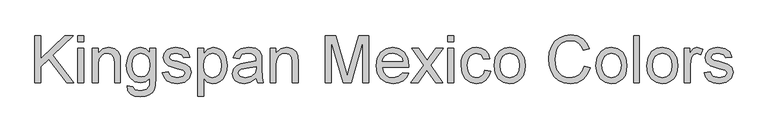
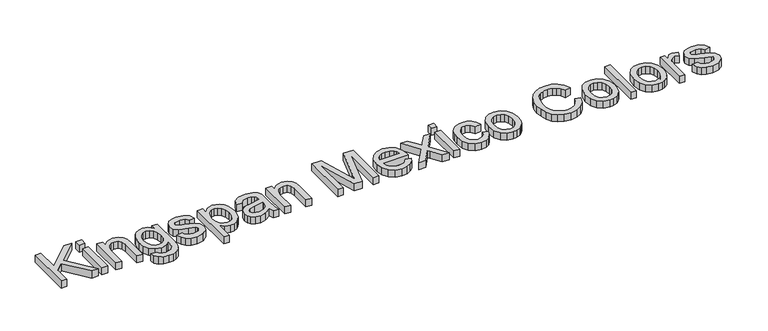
"""IFC4 building model written with IfcOpenShell, lengths in millimetres: proxy geometry, KIP-MX_ColourRange_English : KIP-MX_ColourRange_English."""

import ifcopenshell
import ifcopenshell.guid

model = None  # the IFC model being written
_history = None  # IfcOwnerHistory: only IFC2X3 demands one
_inside = {}  # id of a spatial element -> (the spatial element, [elements in it])
_under = {}  # id of a project, library or spatial element -> (it, [spatial elements below it])
_declared = {}  # id of a project -> (the project, [libraries it declares])
_typed = {}  # id of a type object -> (the type object, [elements of that type])
_made_of = {}  # id of a material, layer set ... -> (it, [elements and type objects made of it])


def new_model(schema):
    """Start an empty IFC model of exactly this schema.

    Asked for "IFC4X3", IfcOpenShell would pick the latest addendum, in which some entities
    have other attributes; the version numbers below select the first issue.
    IFC2X3 requires an IfcOwnerHistory on every rooted entity: one is made here for all.
    """
    global model, _history
    if schema == "IFC4X3":
        model = ifcopenshell.file(schema_version=(4, 3, 0, 0))
    else:
        model = ifcopenshell.file(schema=schema)
    _inside.clear()
    _under.clear()
    _declared.clear()
    _typed.clear()
    _made_of.clear()
    _history = None
    if model.schema == "IFC2X3":
        org = make("IfcOrganization", Name="unknown")
        user = make(
            "IfcPersonAndOrganization",
            ThePerson=make("IfcPerson", FamilyName="unknown"),
            TheOrganization=org,
        )
        app = make(
            "IfcApplication",
            ApplicationDeveloper=org,
            Version="unknown",
            ApplicationFullName="unknown",
            ApplicationIdentifier="unknown",
        )
        _history = make(
            "IfcOwnerHistory",
            OwningUser=user,
            OwningApplication=app,
            ChangeAction="ADDED",
            CreationDate=0,
        )
    return model


def make(cls, **values):
    """One entity of the class cls with the attributes given. An attribute that is None is left unset."""
    return model.create_entity(
        cls, **{name: value for name, value in values.items() if value is not None}
    )


def rooted(cls, **values):
    """An entity with a GlobalId (a new one), such as an element, a storey or a relation."""
    return make(cls, GlobalId=ifcopenshell.guid.new(), OwnerHistory=_history, **values)


def si_unit(unit_type, name, prefix=None):
    """IfcSIUnit, for example si_unit("LENGTHUNIT", "METRE", prefix="MILLI")."""
    return make("IfcSIUnit", UnitType=unit_type, Prefix=prefix, Name=name)


def assignment(units):
    """IfcUnitAssignment: the units of a project."""
    return None if units is None else make("IfcUnitAssignment", Units=units)


def point(xyz):
    """IfcCartesianPoint."""
    return None if xyz is None else make("IfcCartesianPoint", Coordinates=xyz)


def direction(xyz):
    """IfcDirection."""
    return None if xyz is None else make("IfcDirection", DirectionRatios=xyz)


def frame(location, z_axis=None, x_axis=None):
    """IfcAxis2Placement3D, a coordinate frame: its origin and axes. An axis left out is left unset."""
    return make(
        "IfcAxis2Placement3D",
        Location=point(location),
        Axis=direction(z_axis),
        RefDirection=direction(x_axis),
    )


def origin():
    """The frame at (0, 0, 0) with its axes left unset."""
    return frame((0.0, 0.0, 0.0))


def origin_with_axes():
    """The frame at (0, 0, 0) with the z axis (0, 0, 1) and the x axis (1, 0, 0) written out."""
    return frame((0.0, 0.0, 0.0), z_axis=(0.0, 0.0, 1.0), x_axis=(1.0, 0.0, 0.0))


def place(relative_to, where):
    """IfcLocalPlacement: puts the frame where relative to a parent placement (None: the world)."""
    return make(
        "IfcLocalPlacement", PlacementRelTo=relative_to, RelativePlacement=where
    )


def context(
    kind, dimensions, precision=None, world=None, true_north=None, identifier=None
):
    """IfcGeometricRepresentationContext, for example the 3D "Model" context."""
    return make(
        "IfcGeometricRepresentationContext",
        ContextIdentifier=identifier,
        ContextType=kind,
        CoordinateSpaceDimension=dimensions,
        Precision=precision,
        WorldCoordinateSystem=world,
        TrueNorth=true_north,
    )


def project(units=None, contexts=None):
    """IfcProject with its units and contexts."""
    return rooted(
        "IfcProject",
        Name="project",
        RepresentationContexts=contexts,
        UnitsInContext=assignment(units),
    )


def spatial(cls, under=None, at=None, **own):
    """A site, building, storey or space (cls), placed at a placement, below another one or the project."""
    s = rooted(cls, ObjectPlacement=at, **own)
    if under is not None:
        _under.setdefault(under.id(), (under, []))[1].append(s)
    return s


def polyline(points):
    """IfcPolyline through the points."""
    return make("IfcPolyline", Points=[point(p) for p in points])


def outline(outer, holes=None, kind="AREA"):
    """IfcArbitraryClosedProfileDef: a profile drawn as a closed curve; with holes, ...WithVoids."""
    if holes is None:
        return make("IfcArbitraryClosedProfileDef", ProfileType=kind, OuterCurve=outer)
    return make(
        "IfcArbitraryProfileDefWithVoids",
        ProfileType=kind,
        OuterCurve=outer,
        InnerCurves=holes,
    )


def extrude(swept, where, along, depth):
    """IfcExtrudedAreaSolid: the profile swept, set in the frame where, extruded along a direction by depth."""
    return make(
        "IfcExtrudedAreaSolid",
        SweptArea=swept,
        Position=where,
        ExtrudedDirection=direction(along),
        Depth=depth,
    )


def shape(context_of_items, identifier, shape_type, items):
    """IfcShapeRepresentation: the items that make up one representation, for example the "Body"."""
    return make(
        "IfcShapeRepresentation",
        ContextOfItems=context_of_items,
        RepresentationIdentifier=identifier,
        RepresentationType=shape_type,
        Items=items,
    )


def source(mapping_origin, context_of_items, identifier, shape_type, items):
    """IfcRepresentationMap: a shape defined once, which mapped items show again and again."""
    return make(
        "IfcRepresentationMap",
        MappingOrigin=mapping_origin,
        MappedRepresentation=shape(context_of_items, identifier, shape_type, items),
    )


def transform(
    local_origin,
    x_axis=None,
    y_axis=None,
    z_axis=None,
    scale=None,
    scale2=None,
    scale3=None,
    uniform=True,
):
    """IfcCartesianTransformationOperator3D, or its non-uniform kind. x_axis, y_axis, z_axis: its Axis1, 2, 3."""
    if uniform:
        return make(
            "IfcCartesianTransformationOperator3D",
            Axis1=direction(x_axis),
            Axis2=direction(y_axis),
            LocalOrigin=point(local_origin),
            Scale=scale,
            Axis3=direction(z_axis),
        )
    return make(
        "IfcCartesianTransformationOperator3DnonUniform",
        Axis1=direction(x_axis),
        Axis2=direction(y_axis),
        LocalOrigin=point(local_origin),
        Scale=scale,
        Axis3=direction(z_axis),
        Scale2=scale2,
        Scale3=scale3,
    )


def mapped(mapping_source, mapping_target):
    """IfcMappedItem: shows the shape of a source again, moved by a transform."""
    return make(
        "IfcMappedItem", MappingSource=mapping_source, MappingTarget=mapping_target
    )


def made_of(thing, what):
    """Note that an element or type object is made of a material, layer set ...; save() writes the relation."""
    if what is not None:
        _made_of.setdefault(what.id(), (what, []))[1].append(thing)
    return thing


def element(
    cls,
    number,
    at=None,
    inside=None,
    cuts=None,
    type_object=None,
    material=None,
    context=None,
    identifier="Body",
    shape_type=None,
    held_by="IfcProductDefinitionShape",
    body=None,
    shapes=None,
    **own,
):
    """One element of the class cls, such as IfcWall. Its Tag is "e" and its number.

    at: its placement. inside: the storey or other place that contains it. cuts: it is an
    opening in that element (IfcRelVoidsElement). A single representation is given by context,
    identifier, shape_type and body (its items); several are given by shapes. held_by: the class
    of the entity that holds the representations. save() writes the other relations.
    """
    e = rooted(cls, Tag="e%d" % number, ObjectPlacement=at, **own)
    if body is not None:
        shapes = [shape(context, identifier, shape_type, body)]
    if shapes is not None:
        e.Representation = make(held_by, Representations=shapes)
    if inside is not None:
        _inside.setdefault(inside.id(), (inside, []))[1].append(e)
    if cuts is not None:
        rooted(
            "IfcRelVoidsElement", RelatingBuildingElement=cuts, RelatedOpeningElement=e
        )
    if type_object is not None:
        _typed.setdefault(type_object.id(), (type_object, []))[1].append(e)
    return made_of(e, material)


def aggregate(whole, parts):
    """IfcRelAggregates: a whole, such as a stair, and the parts it consists of."""
    return rooted("IfcRelAggregates", RelatingObject=whole, RelatedObjects=parts)


def save(model, path):
    """Write the relations noted so far, then the file.

    IfcRelAggregates (storeys below a building ...), IfcRelContainedInSpatialStructure (elements
    in a storey), IfcRelDefinesByType, IfcRelAssociatesMaterial and IfcRelDeclares: one each for
    every whole, place, type object, material and project.
    """
    for whole, parts in _under.values():
        aggregate(whole, parts)
    for where, things in _inside.values():
        rooted(
            "IfcRelContainedInSpatialStructure",
            RelatedElements=things,
            RelatingStructure=where,
        )
    for kind, things in _typed.values():
        rooted("IfcRelDefinesByType", RelatedObjects=things, RelatingType=kind)
    for what, things in _made_of.values():
        rooted("IfcRelAssociatesMaterial", RelatedObjects=things, RelatingMaterial=what)
    for by, libraries in _declared.values():
        rooted("IfcRelDeclares", RelatingContext=by, RelatedDefinitions=libraries)
    model.write(path)


def generic_models_94ed907e(model_context):
    return source(origin(), model_context, "Body", "SweptSolid", [
        extrude(outline(polyline([(-1110.1207086, 2278.480545), (-1110.1207086, 2429.1650102), (-1091.2851505, 2429.1650102), (-1091.2851505, 2355.4046702), (-1014.0299315, 2429.1650102), (-987.6895807, 2429.1650102), (-1052.5471764, 2367.2136822), (-985.3351359, 2278.480545), (-1008.3645488, 2278.480545), (-1065.9012928, 2354.4849652), (-1091.2851505, 2330.2783299), (-1091.2851505, 2278.480545), (-1110.1207086, 2278.480545)])), origin_with_axes(), (0.0, 0.0, 1.0), 25.0),
        extrude(outline(polyline([(-973.562912, 2410.3294521), (-973.562912, 2429.1650102), (-954.7273539, 2429.1650102), (-954.7273539, 2410.3294521), (-973.562912, 2410.3294521)])), origin_with_axes(), (0.0, 0.0, 1.0), 25.0),
        extrude(outline(polyline([(-973.562912, 2278.480545), (-973.562912, 2389.1394492), (-954.7273539, 2389.1394492), (-954.7273539, 2278.480545), (-973.562912, 2278.480545)])), origin_with_axes(), (0.0, 0.0, 1.0), 25.0),
        extrude(outline(polyline([(-926.4740167, 2278.480545), (-926.4740167, 2389.1394492), (-907.6384585, 2389.1394492), (-907.6384585, 2373.6884054), (-893.2358784, 2387.0425218), (-873.5725857, 2391.4938939), (-855.7854913, 2387.9070445), (-843.6453854, 2378.4892654), (-837.9983968, 2364.6385083), (-837.0051154, 2346.4283495), (-837.0051154, 2278.480545), (-855.8406736, 2278.480545), (-855.8406736, 2343.8899637), (-858.0111774, 2360.5550181), (-865.681517, 2369.3657919), (-878.6125691, 2372.6583358), (-889.6444304, 2370.8097287), (-899.0484139, 2365.2639077), (-905.4909474, 2354.5493446), (-907.6384585, 2337.1945114), (-907.6384585, 2278.480545), (-926.4740167, 2278.480545)])), origin_with_axes(), (0.0, 0.0, 1.0), 25.0),
        extrude(outline(polyline([(-815.8151125, 2269.0627659), (-796.9795544, 2266.7083212), (-790.8727132, 2256.7755073), (-772.5889781, 2252.5816525), (-753.3119615, 2257.3273303), (-744.1149116, 2270.6446585), (-742.8273247, 2292.6072136), (-756.0894706, 2282.0122122), (-772.2578843, 2278.480545), (-791.6774551, 2282.5916263), (-806.1582101, 2294.9248702), (-815.1667205, 2313.0062703), (-818.1695573, 2334.3618201), (-812.780086, 2363.5532564), (-806.1858013, 2375.4036552), (-797.1818894, 2384.2098304), (-786.0764517, 2389.672878), (-773.1775893, 2391.4938939), (-756.3745791, 2387.3736156), (-742.8273247, 2375.0127805), (-742.8273247, 2389.1394492), (-723.9917665, 2389.1394492), (-723.9917665, 2293.600495), (-725.2793535, 2271.5413709), (-729.1421144, 2257.0146306), (-735.79618, 2247.3807208), (-745.4576809, 2240.0000883), (-757.915085, 2235.3095929), (-772.9568601, 2233.7460944), (-790.4818386, 2235.9487878), (-804.282012, 2242.5568682), (-813.1341725, 2253.5887295), (-815.8151125, 2269.0627659)]), holes=[polyline([(-799.3339991, 2335.6494071), (-797.3244437, 2318.3727489), (-791.2957775, 2306.4947589), (-782.2320849, 2299.6107671), (-771.1174501, 2297.3161032), (-760.0855888, 2299.5969715), (-750.9759109, 2306.4395766), (-744.8644712, 2318.1658152), (-742.8273247, 2335.0975841), (-744.924252, 2351.4269461), (-751.2150342, 2363.1853744), (-760.4580693, 2370.2900954), (-771.4117557, 2372.6583358), (-782.1677055, 2370.3268836), (-791.1854129, 2363.3325272), (-797.2968526, 2351.7488429), (-799.3339991, 2335.6494071)])]), origin_with_axes(), (0.0, 0.0, 1.0), 25.0),
        extrude(outline(polyline([(-702.8017636, 2311.4427718), (-683.9662054, 2313.7972165), (-680.9955583, 2305.7406008), (-675.2474021, 2299.8177007), (-655.2714098, 2294.9616584), (-636.0679697, 2299.4130305), (-629.8139757, 2309.8608792), (-631.3866713, 2314.6617392), (-636.1047579, 2318.3221651), (-655.492139, 2323.6932422), (-683.8558408, 2332.9086862), (-696.23507, 2343.6692345), (-700.4473188, 2358.8627609), (-697.0628045, 2372.8974591), (-687.8289664, 2383.6212192), (-675.8544074, 2389.1946315), (-659.6492056, 2391.4938939), (-636.7301573, 2387.7966799), (-622.1620302, 2377.7902896), (-615.6873071, 2360.8861119), (-634.5228653, 2358.5316672), (-641.6045937, 2368.9243335), (-658.1776776, 2372.6583358), (-676.2038953, 2369.0898804), (-681.6117607, 2360.7757473), (-679.3676805, 2355.2943056), (-672.3411344, 2351.1372391), (-656.1175384, 2347.1273253), (-628.4712065, 2338.2613692), (-615.6321248, 2328.2181908), (-610.9784176, 2311.847442), (-616.4414652, 2293.8212242), (-632.2052087, 2280.7430193), (-655.5289272, 2276.1261002), (-674.5208352, 2278.3517863), (-688.3807894, 2285.0288445), (-697.6330216, 2296.0836985), (-702.8017636, 2311.4427718)])), origin_with_axes(), (0.0, 0.0, 1.0), 25.0),
        extrude(outline(polyline([(-589.7884147, 2236.1005392), (-589.7884147, 2389.1394492), (-570.9528565, 2389.1394492), (-570.9528565, 2370.671773), (-557.9298339, 2386.2883637), (-540.3450745, 2391.4938939), (-527.6071604, 2389.672878), (-516.469533, 2384.2098304), (-507.4012418, 2375.4358448), (-500.8713364, 2363.6820151), (-495.6106239, 2334.6561257), (-497.0959475, 2318.5474928), (-501.5519181, 2304.1403142), (-508.8359816, 2292.1657552), (-518.8055837, 2283.3549814), (-530.4168592, 2277.9333205), (-542.6259429, 2276.1261002), (-559.0150858, 2280.9637485), (-570.9528565, 2293.1958248), (-570.9528565, 2236.1005392), (-589.7884147, 2236.1005392)]), holes=[polyline([(-570.9528565, 2332.9270803), (-568.91571, 2316.0412967), (-562.8042703, 2304.2322847), (-553.7865629, 2297.279315), (-543.0306131, 2294.9616584), (-532.0999193, 2297.3620884), (-522.8522856, 2304.5633785), (-516.547708, 2316.8046519), (-514.4461821, 2334.3250319), (-516.4971242, 2351.118845), (-522.6499505, 2363.0934039), (-531.6538624, 2370.2671028), (-542.2580609, 2372.6583358), (-552.9036461, 2370.1153515), (-562.2524473, 2362.4863986), (-568.7777542, 2350.0106004), (-570.9528565, 2332.9270803)])]), origin_with_axes(), (0.0, 0.0, 1.0), 25.0),
        extrude(outline(polyline([(-403.7872779, 2292.6072136), (-422.052619, 2279.8417084), (-442.2309464, 2276.1261002), (-457.9716973, 2278.3609834), (-469.5829727, 2285.0656327), (-476.7428761, 2295.2467669), (-479.1295105, 2307.9111046), (-475.524267, 2322.8103254), (-466.0513056, 2333.6260561), (-452.8627361, 2339.8064736), (-436.5655637, 2342.639165), (-403.8976425, 2349.1138881), (-403.7872779, 2353.3077428), (-405.0840619, 2361.7138464), (-408.974414, 2367.2136822), (-417.6748232, 2371.2971724), (-429.796535, 2372.6583358), (-448.8528223, 2369.0346981), (-457.9395076, 2356.1772224), (-476.7750657, 2358.5316672), (-468.6264796, 2376.9257669), (-452.2189426, 2387.7047094), (-427.3685138, 2391.4938939), (-404.541436, 2388.1461678), (-391.6471721, 2379.7400642), (-385.8714247, 2366.9561648), (-384.9517198, 2350.4750515), (-384.9517198, 2327.0409684), (-383.9952266, 2294.3178649), (-380.2428302, 2278.480545), (-399.0783884, 2278.480545), (-403.7872779, 2292.6072136)]), holes=[polyline([(-403.7872779, 2330.2783299), (-434.1743307, 2324.5025826), (-450.3795326, 2321.449162), (-457.7187784, 2316.4827551), (-460.2939524, 2309.2354798), (-454.6837519, 2299.0451485), (-438.2210327, 2294.9616584), (-419.1647453, 2299.4682128), (-406.8774867, 2310.375914), (-403.8976425, 2324.944041), (-403.7872779, 2330.2783299)])]), origin_with_axes(), (0.0, 0.0, 1.0), 25.0),
        extrude(outline(polyline([(-359.0528273, 2278.480545), (-359.0528273, 2389.1394492), (-340.2172691, 2389.1394492), (-340.2172691, 2373.6884054), (-325.814689, 2387.0425218), (-306.1513964, 2391.4938939), (-288.3643019, 2387.9070445), (-276.2241961, 2378.4892654), (-270.5772075, 2364.6385083), (-269.5839261, 2346.4283495), (-269.5839261, 2278.480545), (-288.4194842, 2278.480545), (-288.4194842, 2343.8899637), (-290.589988, 2360.5550181), (-298.2603276, 2369.3657919), (-311.1913797, 2372.6583358), (-322.2232411, 2370.8097287), (-331.6272246, 2365.2639077), (-338.069758, 2354.5493446), (-340.2172691, 2337.1945114), (-340.2172691, 2278.480545), (-359.0528273, 2278.480545)])), origin_with_axes(), (0.0, 0.0, 1.0), 25.0),
        extrude(outline(polyline([(-182.4694696, 2278.480545), (-182.4694696, 2429.1650102), (-150.0590658, 2429.1650102), (-119.2305546, 2322.9574782), (-113.0133489, 2300.7741939), (-106.2811084, 2324.7968882), (-75.967632, 2429.1650102), (-43.5572282, 2429.1650102), (-43.5572282, 2278.480545), (-62.3927864, 2278.480545), (-62.3927864, 2410.3294521), (-100.2478437, 2278.480545), (-125.7788542, 2278.480545), (-163.6339115, 2410.3294521), (-163.6339115, 2278.480545), (-182.4694696, 2278.480545)])), origin_with_axes(), (0.0, 0.0, 1.0), 25.0),
        extrude(outline(polyline([(64.526502, 2311.4427718), (82.9941781, 2309.088327), (76.3401125, 2295.1731905), (65.7221184, 2284.7713271), (51.3793192, 2278.287407), (33.550838, 2276.1261002), (11.4503271, 2279.855504), (-5.5550181, 2291.0437151), (-16.3983399, 2308.9641668), (-20.0127805, 2332.8902921), (-16.3615517, 2357.6211592), (-5.4078653, 2376.1164265), (11.3675537, 2387.6495271), (32.4839802, 2391.4938939), (52.9428176, 2387.6587241), (69.2905738, 2376.1532147), (80.0097354, 2357.6947356), (83.5827893, 2333.0006567), (83.4724247, 2327.9238852), (-1.1772224, 2327.9238852), (2.0831318, 2313.8248077), (9.6569024, 2303.4597325), (20.5875962, 2297.0861769), (33.91872, 2294.9616584), (52.3863961, 2298.8979957), (64.526502, 2311.4427718)]), holes=[polyline([(-1.1772224, 2346.7594433), (64.7472312, 2346.7594433), (62.1996483, 2356.7106513), (57.2056502, 2363.8291679), (46.2243727, 2370.4510438), (32.4104038, 2372.6583358), (19.7138764, 2370.8971007), (9.215444, 2365.6133956), (1.9175849, 2357.3774374), (-1.1772224, 2346.7594433)])]), origin_with_axes(), (0.0, 0.0, 1.0), 25.0),
        extrude(outline(polyline([(90.6461236, 2278.480545), (130.8924139, 2334.1043027), (93.0005684, 2389.1394492), (115.6620993, 2389.1394492), (133.9458344, 2362.6519455), (142.4806967, 2350.1439577), (149.8751248, 2360.3710771), (170.6972458, 2389.1394492), (193.3587767, 2389.1394492), (153.5539448, 2334.1043027), (191.8872487, 2278.480545), (169.2257178, 2278.480545), (146.1595167, 2311.9210184), (141.9288737, 2318.0278595), (113.3076545, 2278.480545), (90.6461236, 2278.480545)])), origin_with_axes(), (0.0, 0.0, 1.0), 25.0),
        extrude(outline(polyline([(208.3683621, 2410.3294521), (208.3683621, 2429.1650102), (227.2039202, 2429.1650102), (227.2039202, 2410.3294521), (208.3683621, 2410.3294521)])), origin_with_axes(), (0.0, 0.0, 1.0), 25.0),
        extrude(outline(polyline([(208.3683621, 2278.480545), (208.3683621, 2389.1394492), (227.2039202, 2389.1394492), (227.2039202, 2278.480545), (208.3683621, 2278.480545)])), origin_with_axes(), (0.0, 0.0, 1.0), 25.0),
        extrude(outline(polyline([(326.0906005, 2318.5061061), (344.9261587, 2316.1516613), (339.6746432, 2299.399235), (329.8062087, 2286.7394958), (316.2497572, 2278.7794491), (299.9341907, 2276.1261002), (279.8984175, 2279.8279128), (264.231243, 2290.9333505), (254.1190867, 2308.9549698), (250.7483679, 2333.4053269), (252.1877062, 2350.1669503), (256.5057211, 2364.6936906), (263.7713905, 2376.4245277), (274.0536923, 2384.7984416), (286.3547465, 2389.8200308), (299.6766733, 2391.4938939), (315.5921681, 2389.1946315), (328.3162866, 2382.296844), (337.4443586, 2371.1684137), (342.5717139, 2356.1772224), (323.7361558, 2353.8227776), (314.9989584, 2367.9310521), (299.8238261, 2372.6583358), (287.6515306, 2370.3314821), (277.9900297, 2363.3509213), (271.685452, 2351.3395741), (269.5839261, 2333.9203617), (271.6394667, 2316.2666244), (277.8060887, 2304.2138906), (287.2928456, 2297.2747164), (299.3087913, 2294.9616584), (309.0622627, 2296.4055952), (317.0590975, 2300.7374057), (322.8762316, 2308.0674545), (326.0906005, 2318.5061061)])), origin_with_axes(), (0.0, 0.0, 1.0), 25.0),
        extrude(outline(polyline([(356.6983825, 2333.8099971), (360.7726756, 2360.4906388), (372.9955549, 2379.2434235), (388.0971108, 2388.4312763), (406.1785109, 2391.4938939), (425.9659637, 2387.7644902), (441.7710939, 2376.576279), (452.1315706, 2358.8121772), (455.5850628, 2335.3551015), (454.0583525, 2316.3264053), (449.4782217, 2301.8410517), (441.9780275, 2290.9931314), (431.6911272, 2282.8767348), (419.4728465, 2277.8137589), (406.1785109, 2276.1261002), (386.1519348, 2279.8417084), (370.3651986, 2290.9885328), (360.1150866, 2309.1251152), (356.6983825, 2333.8099971)]), holes=[polyline([(375.5339407, 2333.8467853), (377.7136415, 2316.8000533), (384.252744, 2304.655349), (394.0935873, 2297.385081), (406.1785109, 2294.9616584), (418.2082521, 2297.3988766), (428.0307014, 2304.7105313), (434.5698039, 2317.016184), (436.7495047, 2334.4353965), (434.5560083, 2350.9854877), (427.9755191, 2362.9646452), (418.1392742, 2370.2349131), (406.1785109, 2372.6583358), (394.0935873, 2370.2441102), (384.252744, 2363.0014334), (377.7136415, 2350.8843202), (375.5339407, 2333.8467853)])]), origin_with_axes(), (0.0, 0.0, 1.0), 25.0),
        extrude(outline(polyline([(643.9406444, 2332.0441635), (662.7762025, 2327.1881212), (654.0849904, 2305.2393616), (640.4457654, 2289.2043052), (622.5299122, 2279.3956515), (601.0088155, 2276.1261002), (579.1612235, 2278.6001067), (561.8109889, 2286.0221259), (548.5120548, 2298.1346406), (538.8183642, 2314.6801333), (532.9000626, 2334.1318938), (530.9272954, 2354.9632118), (533.15758, 2376.934964), (539.8484338, 2395.9084779), (550.6503689, 2411.2813467), (565.2138974, 2422.4511638), (582.4859571, 2429.2523822), (601.4134857, 2431.519455), (622.0654612, 2428.5855961), (639.1397843, 2419.7840194), (652.1030261, 2405.6573507), (660.4217577, 2386.7482162), (641.5861996, 2382.2600558), (635.0562942, 2395.9958498), (626.1351558, 2405.4182274), (614.7124198, 2410.8674795), (600.6777217, 2412.6838968), (584.500111, 2410.6697429), (571.2103739, 2404.6272811), (561.1258087, 2395.191108), (554.5637136, 2382.9958198), (549.7628536, 2355.0), (551.1837978, 2337.5991816), (555.4466304, 2322.552808), (562.7122998, 2310.4356948), (573.1417544, 2301.8226576), (585.6451437, 2296.6769082), (599.1326173, 2294.9616584), (614.8549741, 2297.2977091), (627.9561717, 2304.3058611), (637.8475988, 2315.912538), (643.9406444, 2332.0441635)])), origin_with_axes(), (0.0, 0.0, 1.0), 25.0),
        extrude(outline(polyline([(681.6117607, 2333.8099971), (685.6860538, 2360.4906388), (697.908933, 2379.2434235), (713.010489, 2388.4312763), (731.091889, 2391.4938939), (750.8793418, 2387.7644902), (766.684472, 2376.576279), (777.0449487, 2358.8121772), (780.498441, 2335.3551015), (778.9717307, 2316.3264053), (774.3915998, 2301.8410517), (766.8914057, 2290.9931314), (756.6045054, 2282.8767348), (744.3862246, 2277.8137589), (731.091889, 2276.1261002), (711.0653129, 2279.8417084), (695.2785768, 2290.9885328), (685.0284647, 2309.1251152), (681.6117607, 2333.8099971)]), holes=[polyline([(700.4473188, 2333.8467853), (702.6270196, 2316.8000533), (709.1661221, 2304.655349), (719.0069655, 2297.385081), (731.091889, 2294.9616584), (743.1216303, 2297.3988766), (752.9440795, 2304.7105313), (759.483182, 2317.016184), (761.6628828, 2334.4353965), (759.4693864, 2350.9854877), (752.8888972, 2362.9646452), (743.0526524, 2370.2349131), (731.091889, 2372.6583358), (719.0069655, 2370.2441102), (709.1661221, 2363.0014334), (702.6270196, 2350.8843202), (700.4473188, 2333.8467853)])]), origin_with_axes(), (0.0, 0.0, 1.0), 25.0),
        extrude(outline(polyline([(801.6884439, 2278.480545), (801.6884439, 2429.1650102), (820.524002, 2429.1650102), (820.524002, 2278.480545), (801.6884439, 2278.480545)])), origin_with_axes(), (0.0, 0.0, 1.0), 25.0),
        extrude(outline(polyline([(844.0684497, 2333.8099971), (848.1427428, 2360.4906388), (860.3656221, 2379.2434235), (875.467178, 2388.4312763), (893.5485781, 2391.4938939), (913.3360309, 2387.7644902), (929.1411611, 2376.576279), (939.5016378, 2358.8121772), (942.95513, 2335.3551015), (941.4284198, 2316.3264053), (936.8482889, 2301.8410517), (929.3480947, 2290.9931314), (919.0611945, 2282.8767348), (906.8429137, 2277.8137589), (893.5485781, 2276.1261002), (873.522002, 2279.8417084), (857.7352659, 2290.9885328), (847.4851538, 2309.1251152), (844.0684497, 2333.8099971)]), holes=[polyline([(862.9040079, 2333.8467853), (865.0837087, 2316.8000533), (871.6228112, 2304.655349), (881.4636545, 2297.385081), (893.5485781, 2294.9616584), (905.5783193, 2297.3988766), (915.4007686, 2304.7105313), (921.9398711, 2317.016184), (924.1195719, 2334.4353965), (921.9260755, 2350.9854877), (915.3455863, 2362.9646452), (905.5093415, 2370.2349131), (893.5485781, 2372.6583358), (881.4636545, 2370.2441102), (871.6228112, 2363.0014334), (865.0837087, 2350.8843202), (862.9040079, 2333.8467853)])]), origin_with_axes(), (0.0, 0.0, 1.0), 25.0),
        extrude(outline(polyline([(964.145133, 2278.480545), (964.145133, 2389.1394492), (980.6262463, 2389.1394492), (980.6262463, 2372.7687004), (992.3248938, 2387.8518622), (1004.0971176, 2391.4938939), (1023.0062522, 2385.6813584), (1016.7154701, 2368.7955748), (1003.4717182, 2372.6583358), (992.8215345, 2368.9427276), (986.0341117, 2358.6420318), (982.9806911, 2336.6426884), (982.9806911, 2278.480545), (964.145133, 2278.480545)])), origin_with_axes(), (0.0, 0.0, 1.0), 25.0),
        extrude(outline(polyline([(1027.7151417, 2311.4427718), (1046.5506999, 2313.7972165), (1049.521347, 2305.7406008), (1055.2695032, 2299.8177007), (1075.2454955, 2294.9616584), (1094.4489357, 2299.4130305), (1100.7029296, 2309.8608792), (1099.130234, 2314.6617392), (1094.4121475, 2318.3221651), (1075.0247663, 2323.6932422), (1046.6610645, 2332.9086862), (1034.2818353, 2343.6692345), (1030.0695865, 2358.8627609), (1033.4541009, 2372.8974591), (1042.6879389, 2383.6212192), (1054.6624979, 2389.1946315), (1070.8676998, 2391.4938939), (1093.7867481, 2387.7966799), (1108.3548751, 2377.7902896), (1114.8295982, 2360.8861119), (1095.99404, 2358.5316672), (1088.9123116, 2368.9243335), (1072.3392277, 2372.6583358), (1054.31301, 2369.0898804), (1048.9051446, 2360.7757473), (1051.1492248, 2355.2943056), (1058.1757709, 2351.1372391), (1074.3993669, 2347.1273253), (1102.0456989, 2338.2613692), (1114.8847805, 2328.2181908), (1119.5384877, 2311.847442), (1114.0754401, 2293.8212242), (1098.3116966, 2280.7430193), (1074.9879781, 2276.1261002), (1055.9960701, 2278.3517863), (1042.1361159, 2285.0288445), (1032.8838838, 2296.0836985), (1027.7151417, 2311.4427718)])), origin_with_axes(), (0.0, 0.0, 1.0), 25.0),
    ])


if __name__ == "__main__":
    model = new_model("IFC4")
    model_context = context("Model", 3, world=origin())
    ifc_project = project(units=[si_unit("LENGTHUNIT", "METRE", prefix="MILLI")], contexts=[model_context])
    site = spatial("IfcSite", under=ifc_project)
    building = spatial("IfcBuilding", under=site)
    placement = place(None, origin())
    generic_models_shape = generic_models_94ed907e(model_context)
    element("IfcBuildingElementProxy", 1, Name="KIP-MX_ColourRange_English : KIP-MX_ColourRange_English", ObjectType="KIP-MX_ColourRange_English : KIP-MX_ColourRange_English", at=placement, inside=building, context=model_context, shape_type="MappedRepresentation", body=[
        mapped(generic_models_shape, transform((0.0, 0.0, 0.0), x_axis=(1.0, 0.0, 0.0), y_axis=(0.0, 1.0, 0.0), z_axis=(0.0, 0.0, 1.0))),
    ])
    save(model, "model.ifc")
